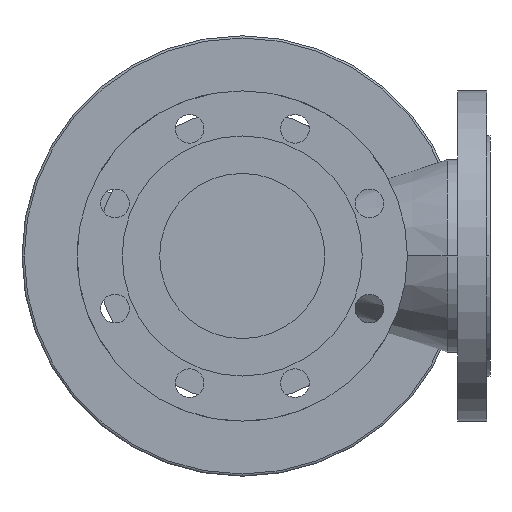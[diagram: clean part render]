
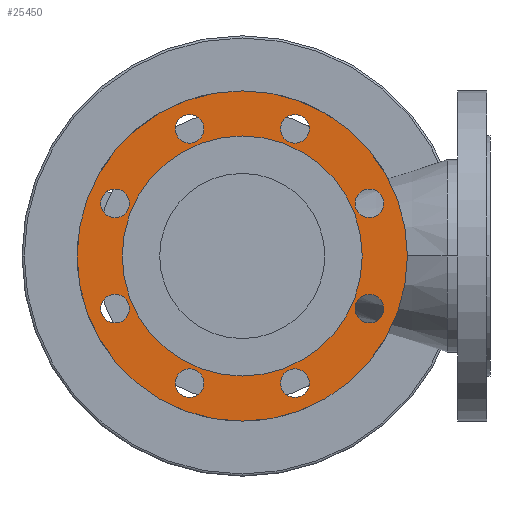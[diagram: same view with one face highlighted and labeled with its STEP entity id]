
A CAD part, front view. The second image highlights one B-rep face of the part: STEP entity #25450.
In plain terms, the highlighted planar face has unit normal (0, -1, 0).
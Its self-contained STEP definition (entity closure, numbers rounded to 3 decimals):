
#610=CARTESIAN_POINT('',(-109.,3.,0.));
#620=VERTEX_POINT('',#610);
#780=CARTESIAN_POINT('',(109.,3.,0.));
#790=VERTEX_POINT('',#780);
#820=CARTESIAN_POINT('',(0.,3.,0.));
#830=DIRECTION('',(0.,-1.,0.));
#840=DIRECTION('',(-1.,0.,0.));
#850=AXIS2_PLACEMENT_3D('',#820,#830,#840);
#860=CIRCLE('',#850,109.);
#870=EDGE_CURVE('',#620,#790,#860,.T.);
#7270=CARTESIAN_POINT('',(150.,3.,0.));
#7280=VERTEX_POINT('',#7270);
#7440=CARTESIAN_POINT('',(-150.,3.,0.));
#7450=VERTEX_POINT('',#7440);
#7480=CARTESIAN_POINT('',(0.,3.,0.));
#7490=DIRECTION('',(0.,1.,0.));
#7500=DIRECTION('',(1.,0.,0.));
#7510=AXIS2_PLACEMENT_3D('',#7480,#7490,#7500);
#7520=CIRCLE('',#7510,150.);
#7530=EDGE_CURVE('',#7280,#7450,#7520,.T.);
#7760=CARTESIAN_POINT('',(102.485,3.,-47.835));
#7770=VERTEX_POINT('',#7760);
#7930=CARTESIAN_POINT('',(128.485,3.,-47.835));
#7940=VERTEX_POINT('',#7930);
#7970=CARTESIAN_POINT('',(115.485,3.,-47.835));
#7980=DIRECTION('',(0.,1.,0.));
#7990=DIRECTION('',(1.,0.,0.));
#8000=AXIS2_PLACEMENT_3D('',#7970,#7980,#7990);
#8010=CIRCLE('',#8000,13.);
#8020=EDGE_CURVE('',#7940,#7770,#8010,.T.);
#8250=CARTESIAN_POINT('',(102.485,3.,47.835));
#8260=VERTEX_POINT('',#8250);
#8290=CARTESIAN_POINT('',(115.485,3.,47.835));
#8300=DIRECTION('',(0.,1.,0.));
#8310=DIRECTION('',(1.,0.,0.));
#8320=AXIS2_PLACEMENT_3D('',#8290,#8300,#8310);
#8330=CIRCLE('',#8320,13.);
#8340=CARTESIAN_POINT('',(128.485,3.,47.835));
#8350=VERTEX_POINT('',#8340);
#8360=EDGE_CURVE('',#8260,#8350,#8330,.T.);
#8740=CARTESIAN_POINT('',(34.835,3.,-115.485));
#8750=VERTEX_POINT('',#8740);
#8910=CARTESIAN_POINT('',(60.835,3.,-115.485));
#8920=VERTEX_POINT('',#8910);
#8950=CARTESIAN_POINT('',(47.835,3.,-115.485));
#8960=DIRECTION('',(0.,1.,0.));
#8970=DIRECTION('',(1.,0.,0.));
#8980=AXIS2_PLACEMENT_3D('',#8950,#8960,#8970);
#8990=CIRCLE('',#8980,13.);
#9000=EDGE_CURVE('',#8920,#8750,#8990,.T.);
#9230=CARTESIAN_POINT('',(34.835,3.,115.485));
#9240=VERTEX_POINT('',#9230);
#9270=CARTESIAN_POINT('',(47.835,3.,115.485));
#9280=DIRECTION('',(0.,1.,0.));
#9290=DIRECTION('',(1.,0.,0.));
#9300=AXIS2_PLACEMENT_3D('',#9270,#9280,#9290);
#9310=CIRCLE('',#9300,13.);
#9320=CARTESIAN_POINT('',(60.835,3.,115.485));
#9330=VERTEX_POINT('',#9320);
#9340=EDGE_CURVE('',#9240,#9330,#9310,.T.);
#9720=CARTESIAN_POINT('',(-60.835,3.,-115.485));
#9730=VERTEX_POINT('',#9720);
#9760=CARTESIAN_POINT('',(-47.835,3.,-115.485));
#9770=DIRECTION('',(0.,1.,0.));
#9780=DIRECTION('',(1.,0.,0.));
#9790=AXIS2_PLACEMENT_3D('',#9760,#9770,#9780);
#9800=CIRCLE('',#9790,13.);
#9810=CARTESIAN_POINT('',(-34.835,3.,-115.485));
#9820=VERTEX_POINT('',#9810);
#9830=EDGE_CURVE('',#9730,#9820,#9800,.T.);
#10210=CARTESIAN_POINT('',(-34.835,3.,115.485));
#10220=VERTEX_POINT('',#10210);
#10380=CARTESIAN_POINT('',(-60.835,3.,115.485));
#10390=VERTEX_POINT('',#10380);
#10420=CARTESIAN_POINT('',(-47.835,3.,115.485));
#10430=DIRECTION('',(0.,1.,0.));
#10440=DIRECTION('',(1.,0.,0.));
#10450=AXIS2_PLACEMENT_3D('',#10420,#10430,#10440);
#10460=CIRCLE('',#10450,13.);
#10470=EDGE_CURVE('',#10390,#10220,#10460,.T.);
#10700=CARTESIAN_POINT('',(-128.485,3.,-47.835));
#10710=VERTEX_POINT('',#10700);
#10870=CARTESIAN_POINT('',(-102.485,3.,-47.835));
#10880=VERTEX_POINT('',#10870);
#10910=CARTESIAN_POINT('',(-115.485,3.,-47.835));
#10920=DIRECTION('',(0.,1.,0.));
#10930=DIRECTION('',(1.,0.,0.));
#10940=AXIS2_PLACEMENT_3D('',#10910,#10920,#10930);
#10950=CIRCLE('',#10940,13.);
#10960=EDGE_CURVE('',#10880,#10710,#10950,.T.);
#11190=CARTESIAN_POINT('',(-128.485,3.,47.835));
#11200=VERTEX_POINT('',#11190);
#11360=CARTESIAN_POINT('',(-102.485,3.,47.835));
#11370=VERTEX_POINT('',#11360);
#11400=CARTESIAN_POINT('',(-115.485,3.,47.835));
#11410=DIRECTION('',(0.,1.,0.));
#11420=DIRECTION('',(1.,0.,0.));
#11430=AXIS2_PLACEMENT_3D('',#11400,#11410,#11420);
#11440=CIRCLE('',#11430,13.);
#11450=EDGE_CURVE('',#11370,#11200,#11440,.T.);
#24900=CARTESIAN_POINT('',(0.,3.,0.));
#24910=DIRECTION('',(0.,1.,0.));
#24920=DIRECTION('',(0.,0.,1.));
#24930=AXIS2_PLACEMENT_3D('',#24900,#24910,#24920);
#24940=PLANE('',#24930);
#24950=EDGE_CURVE('',#11200,#11370,#11440,.T.);
#24960=ORIENTED_EDGE('',*,*,#24950,.T.);
#24970=ORIENTED_EDGE('',*,*,#11450,.T.);
#24980=EDGE_LOOP('',(#24970,#24960));
#24990=FACE_BOUND('',#24980,.T.);
#25000=EDGE_CURVE('',#10710,#10880,#10950,.T.);
#25010=ORIENTED_EDGE('',*,*,#25000,.T.);
#25020=ORIENTED_EDGE('',*,*,#10960,.T.);
#25030=EDGE_LOOP('',(#25020,#25010));
#25040=FACE_BOUND('',#25030,.T.);
#25050=EDGE_CURVE('',#10220,#10390,#10460,.T.);
#25060=ORIENTED_EDGE('',*,*,#25050,.T.);
#25070=ORIENTED_EDGE('',*,*,#10470,.T.);
#25080=EDGE_LOOP('',(#25070,#25060));
#25090=FACE_BOUND('',#25080,.T.);
#25100=ORIENTED_EDGE('',*,*,#9830,.T.);
#25110=EDGE_CURVE('',#9820,#9730,#9800,.T.);
#25120=ORIENTED_EDGE('',*,*,#25110,.T.);
#25130=EDGE_LOOP('',(#25120,#25100));
#25140=FACE_BOUND('',#25130,.T.);
#25150=EDGE_CURVE('',#9330,#9240,#9310,.T.);
#25160=ORIENTED_EDGE('',*,*,#25150,.T.);
#25170=ORIENTED_EDGE('',*,*,#9340,.T.);
#25180=EDGE_LOOP('',(#25170,#25160));
#25190=FACE_BOUND('',#25180,.T.);
#25200=EDGE_CURVE('',#8750,#8920,#8990,.T.);
#25210=ORIENTED_EDGE('',*,*,#25200,.T.);
#25220=ORIENTED_EDGE('',*,*,#9000,.T.);
#25230=EDGE_LOOP('',(#25220,#25210));
#25240=FACE_BOUND('',#25230,.T.);
#25250=ORIENTED_EDGE('',*,*,#8360,.T.);
#25260=EDGE_CURVE('',#8350,#8260,#8330,.T.);
#25270=ORIENTED_EDGE('',*,*,#25260,.T.);
#25280=EDGE_LOOP('',(#25270,#25250));
#25290=FACE_BOUND('',#25280,.T.);
#25300=EDGE_CURVE('',#7770,#7940,#8010,.T.);
#25310=ORIENTED_EDGE('',*,*,#25300,.T.);
#25320=ORIENTED_EDGE('',*,*,#8020,.T.);
#25330=EDGE_LOOP('',(#25320,#25310));
#25340=FACE_BOUND('',#25330,.T.);
#25350=EDGE_CURVE('',#7450,#7280,#7520,.T.);
#25360=ORIENTED_EDGE('',*,*,#25350,.F.);
#25370=ORIENTED_EDGE('',*,*,#7530,.F.);
#25380=EDGE_LOOP('',(#25370,#25360));
#25390=FACE_OUTER_BOUND('',#25380,.T.);
#25400=EDGE_CURVE('',#790,#620,#860,.T.);
#25410=ORIENTED_EDGE('',*,*,#25400,.F.);
#25420=ORIENTED_EDGE('',*,*,#870,.F.);
#25430=EDGE_LOOP('',(#25420,#25410));
#25440=FACE_BOUND('',#25430,.T.);
#25450=ADVANCED_FACE('',(#24990,#25040,#25090,#25140,#25190,#25240,
#25290,#25340,#25390,#25440),#24940,.F.);
